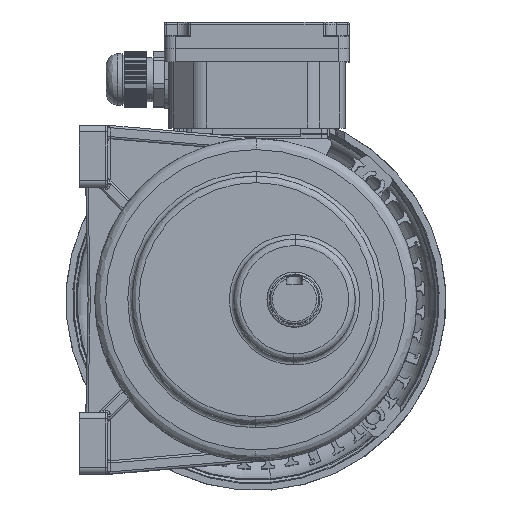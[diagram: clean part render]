
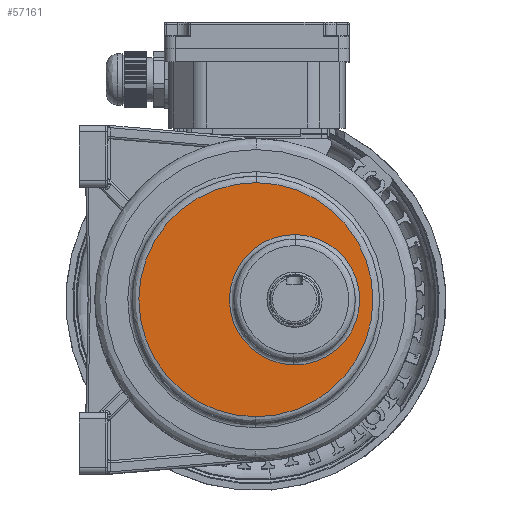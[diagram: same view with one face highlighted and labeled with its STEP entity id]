
A CAD part, top view. The second image highlights one B-rep face of the part: STEP entity #57161.
In plain terms, the highlighted planar face has unit normal (0, 0, 1).
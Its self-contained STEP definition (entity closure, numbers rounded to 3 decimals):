
#611 = DIRECTION ( 'NONE',  ( 0., -1., 0. ) ) ;
#946 = CARTESIAN_POINT ( 'NONE',  ( -0.254, 8.888, 230.692 ) ) ;
#1465 = EDGE_CURVE ( 'NONE', #38994, #52649, #32844, .T. ) ;
#2286 = AXIS2_PLACEMENT_3D ( 'NONE', #946, #25866, #50724 ) ;
#2680 = CARTESIAN_POINT ( 'NONE',  ( -17.754, 8.888, 230.692 ) ) ;
#6771 = PLANE ( 'NONE',  #68755 ) ;
#12325 = CARTESIAN_POINT ( 'NONE',  ( 0.141, 38.386, 230.692 ) ) ;
#12553 = ORIENTED_EDGE ( 'NONE', *, *, #79629, .F. ) ;
#15581 = CARTESIAN_POINT ( 'NONE',  ( -0.254, 8.888, 230.692 ) ) ;
#16519 = ORIENTED_EDGE ( 'NONE', *, *, #18810, .F. ) ;
#18810 = EDGE_CURVE ( 'NONE', #75538, #78444, #37446, .T. ) ;
#21230 = AXIS2_PLACEMENT_3D ( 'NONE', #2680, #27548, #52416 ) ;
#24552 = CARTESIAN_POINT ( 'NONE',  ( -17.754, 8.888, 230.692 ) ) ;
#25437 = EDGE_CURVE ( 'NONE', #52649, #38994, #56304, .T. ) ;
#25788 = CARTESIAN_POINT ( 'NONE',  ( -18.101, -44.111, 230.692 ) ) ;
#25866 = DIRECTION ( 'NONE',  ( 0., 0., 1. ) ) ;
#27548 = DIRECTION ( 'NONE',  ( 0., 0., 1. ) ) ;
#31604 = CARTESIAN_POINT ( 'NONE',  ( -17.754, 8.888, 230.692 ) ) ;
#32844 = CIRCLE ( 'NONE', #78360, 53. ) ;
#34318 = CARTESIAN_POINT ( 'NONE',  ( -17.406, 61.887, 230.692 ) ) ;
#37446 = CIRCLE ( 'NONE', #2286, 29.5 ) ;
#37727 = FACE_OUTER_BOUND ( 'NONE', #55345, .T. ) ;
#38994 = VERTEX_POINT ( 'NONE', #25788 ) ;
#40399 = DIRECTION ( 'NONE',  ( 0., 0., 1. ) ) ;
#42006 = AXIS2_PLACEMENT_3D ( 'NONE', #15581, #40399, #65194 ) ;
#44880 = EDGE_LOOP ( 'NONE', ( #12553, #16519 ) ) ;
#48050 = ORIENTED_EDGE ( 'NONE', *, *, #1465, .T. ) ;
#49403 = DIRECTION ( 'NONE',  ( 0., 0., 1. ) ) ;
#50724 = DIRECTION ( 'NONE',  ( 0., 1., 0. ) ) ;
#52416 = DIRECTION ( 'NONE',  ( 0., -1., 0. ) ) ;
#52649 = VERTEX_POINT ( 'NONE', #34318 ) ;
#55345 = EDGE_LOOP ( 'NONE', ( #48050, #57725 ) ) ;
#56304 = CIRCLE ( 'NONE', #21230, 53. ) ;
#56465 = DIRECTION ( 'NONE',  ( 0., 0., 1. ) ) ;
#57161 = ADVANCED_FACE ( 'NONE', ( #37727, #62535 ), #6771, .T. ) ;
#57725 = ORIENTED_EDGE ( 'NONE', *, *, #25437, .T. ) ;
#62535 = FACE_BOUND ( 'NONE', #44880, .T. ) ;
#65194 = DIRECTION ( 'NONE',  ( 0., 1., 0. ) ) ;
#68755 = AXIS2_PLACEMENT_3D ( 'NONE', #31604, #56465, #611 ) ;
#69063 = CARTESIAN_POINT ( 'NONE',  ( -0.648, -20.609, 230.692 ) ) ;
#74185 = DIRECTION ( 'NONE',  ( 0., -1., 0. ) ) ;
#75538 = VERTEX_POINT ( 'NONE', #12325 ) ;
#77110 = CIRCLE ( 'NONE', #42006, 29.5 ) ;
#78360 = AXIS2_PLACEMENT_3D ( 'NONE', #24552, #49403, #74185 ) ;
#78444 = VERTEX_POINT ( 'NONE', #69063 ) ;
#79629 = EDGE_CURVE ( 'NONE', #78444, #75538, #77110, .T. ) ;
